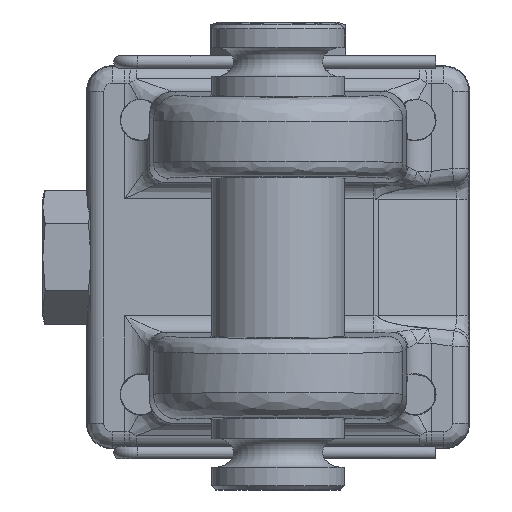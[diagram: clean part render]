
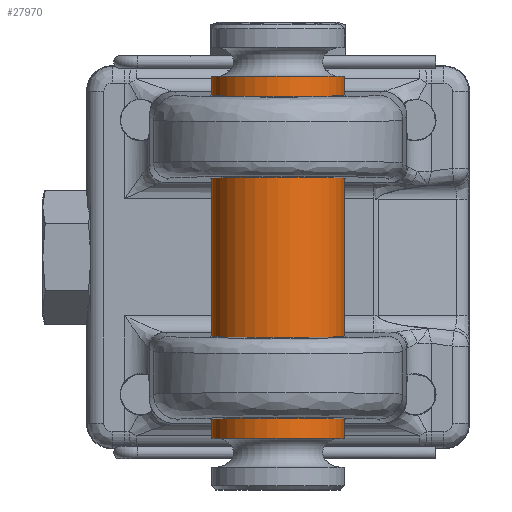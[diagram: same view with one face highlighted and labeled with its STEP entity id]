
A CAD part, left-side view. The second image highlights one B-rep face of the part: STEP entity #27970.
In plain terms, the highlighted cylindrical face has radius 12.7 mm (diameter 25.4 mm), a full revolution.
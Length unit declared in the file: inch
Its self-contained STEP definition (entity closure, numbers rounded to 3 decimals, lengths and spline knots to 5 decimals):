
#27866=CARTESIAN_POINT('',(-1.35975,0.5,0.));
#27867=VERTEX_POINT('',#27866);
#27868=CARTESIAN_POINT('',(-1.35975,0.0,0.0));
#27869=DIRECTION('',(1.0,0.0,0.0));
#27870=DIRECTION('',(0.0,-1.0,0.0));
#27871=AXIS2_PLACEMENT_3D('',#27868,#27869,#27870);
#27872=CIRCLE('',#27871,0.5);
#27873=EDGE_CURVE('',#27867,#27867,#27872,.T.);
#27898=CARTESIAN_POINT('',(1.35975,0.5,0.));
#27899=VERTEX_POINT('',#27898);
#27900=CARTESIAN_POINT('',(1.35975,0.0,0.0));
#27901=DIRECTION('',(-1.0,0.0,0.0));
#27902=DIRECTION('',(0.0,-1.0,0.0));
#27903=AXIS2_PLACEMENT_3D('',#27900,#27901,#27902);
#27904=CIRCLE('',#27903,0.5);
#27905=EDGE_CURVE('',#27899,#27899,#27904,.T.);
#27959=CARTESIAN_POINT('',(0.0,0.0,0.0));
#27960=DIRECTION('',(1.0,0.0,0.0));
#27961=DIRECTION('',(0.0,-1.0,0.0));
#27962=AXIS2_PLACEMENT_3D('',#27959,#27960,#27961);
#27963=CYLINDRICAL_SURFACE('',#27962,0.5);
#27964=ORIENTED_EDGE('',*,*,#27873,.T.);
#27965=EDGE_LOOP('',(#27964));
#27966=FACE_OUTER_BOUND('',#27965,.T.);
#27967=ORIENTED_EDGE('',*,*,#27905,.T.);
#27968=EDGE_LOOP('',(#27967));
#27969=FACE_BOUND('',#27968,.T.);
#27970=ADVANCED_FACE('',(#27966,#27969),#27963,.T.);
